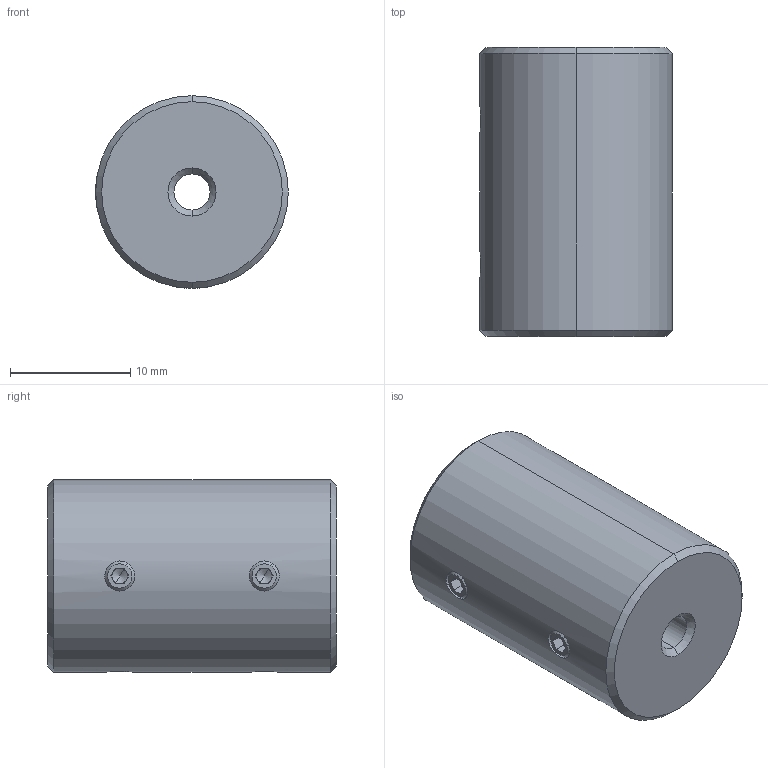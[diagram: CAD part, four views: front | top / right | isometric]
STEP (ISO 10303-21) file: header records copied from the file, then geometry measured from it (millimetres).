
FILE_DESCRIPTION (( 'STEP AP214' ), '1' );
FILE_NAME ('LL-D-D16L24-3-6.35.STEP', '2022-07-23T06:57:24', ( '' ), ( '' ), 'SwSTEP 2.0', 'SolidWorks 2022', '' );
FILE_SCHEMA (( 'AUTOMOTIVE_DESIGN' ));
Length unit declared in the file: millimetre
Products named in the file (1): LL-D-D16L24-3-6.35
Bounding box: 16 x 24 x 16 mm (x, y, z)
Volume: 4298.3 mm3; surface area: 2018.5 mm2
Topology: 1 solids, 1 shells, 113 faces, 288 edges, 177 vertices
Faces by surface type: plane 59, cone 32, cylinder 22
Entity records: 3654 total; most frequent: CARTESIAN_POINT 899, DIRECTION 582, ORIENTED_EDGE 560, EDGE_CURVE 280, AXIS2_PLACEMENT_3D 214, VERTEX_POINT 177, VECTOR 154, LINE 154
